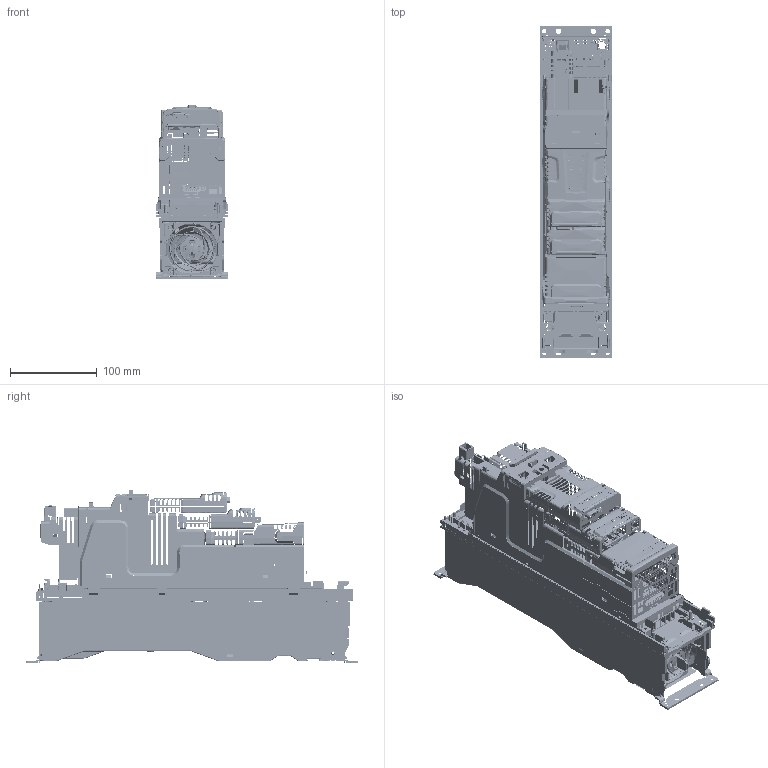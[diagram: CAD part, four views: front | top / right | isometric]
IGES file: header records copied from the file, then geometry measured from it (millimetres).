
Start section:  PTC IGES file: unim03_with_no_covers.igs
Global section: file name: unim03_with_no_covers.igs; native system: Pro/ENGINEER by Parametric Technology Corporation; preprocessor: 2011490; author: lewisi02; organization: Unknown; date: 20130903.140832; units: millimetre
Bounding box: 83.2 x 382 x 200.9 mm (x, y, z)
Surface area: 378086 mm2 (no closed solid volume)
Topology: 0 solids, 0 shells, 2441 faces, 20683 edges, 20677 vertices
Faces by surface type: bspline 2441
